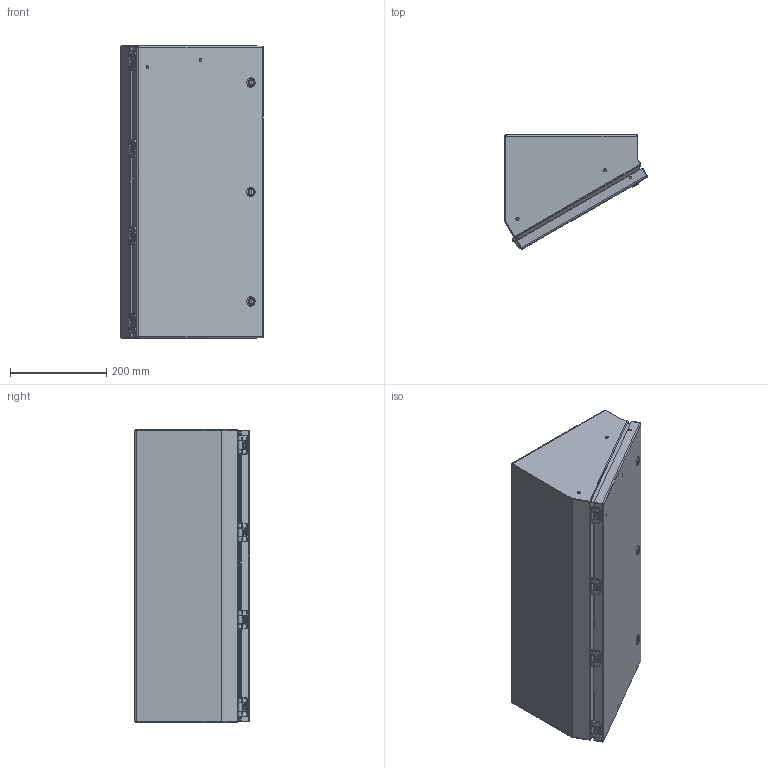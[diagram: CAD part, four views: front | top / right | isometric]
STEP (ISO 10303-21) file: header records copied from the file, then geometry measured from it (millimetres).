
FILE_DESCRIPTION((''),'2;1');
FILE_NAME('MODEL-340_ASM','2023-09-13T15:40:54',('joshi'),('SAGINAW CONTROL & ENGINEERING'),'CREO PARAMETRIC BY PTC INC, 2021284','CREO PARAMETRIC BY PTC INC, 2021284','');
FILE_SCHEMA(('AUTOMOTIVE_DESIGN { 1 0 10303 214 1 1 1 1 }'));
Length unit declared in the file: inch
Products named in the file (25): MODEL-340-BDY; 112643-BOX-LEAF; 112643-BOX-LEAF-STUD; 112643-BOX_ASM; 112643-DOOR-LEAF; 112643-DOOR-LEAF-STUD; 112643-DOOR_ASM; 112643-PIN; 112643_ASM; 113152; MODEL-340-DR; 100063; 112987_SHAFT; 112987_INSERT; 112984; 112987_SCREW; 112987_NUT; 112987_ASM; MODEL-340-GSKT; 100009; 122190; SUBPANEL; 102479; SUBPANEL-SUBASSEMBLY_ASM; MODEL-340_ASM
Assembly tree (49 placements, depth 4):
  MODEL-340_ASM
    MODEL-340-BDY
    112643_ASM  x4
      112643-BOX_ASM
        112643-BOX-LEAF
        112643-BOX-LEAF-STUD
      112643-DOOR_ASM
        112643-DOOR-LEAF
        112643-DOOR-LEAF-STUD
      112643-PIN
    113152  x8
    MODEL-340-DR
    100063  x4
    112987_ASM  x3
      112987_SHAFT
      112987_INSERT
      112984
      112987_SCREW
      112987_NUT
    MODEL-340-GSKT
    100009  x6
    122190
    SUBPANEL-SUBASSEMBLY_ASM
      SUBPANEL
      102479  x6
Bounding box: 296.3 x 238.26 x 609.7 mm (x, y, z)
Volume: 1418446.1 mm3; surface area: 1744281.2 mm2
Topology: 66 solids, 70 shells, 5584 faces, 14213 edges, 8734 vertices
Faces by surface type: plane 1902, cylinder 1616, bspline 1538, cone 248, torus 232, sphere 48
Entity records: 108097 total; most frequent: CARTESIAN_POINT 58536, ORIENTED_EDGE 6982, DIRECTION 6100, PRESENTATION_STYLE_ASSIGNMENT 4006, STYLED_ITEM 4006, EDGE_CURVE 3491, CURVE_STYLE 3401, AXIS2_PLACEMENT_3D 2256
